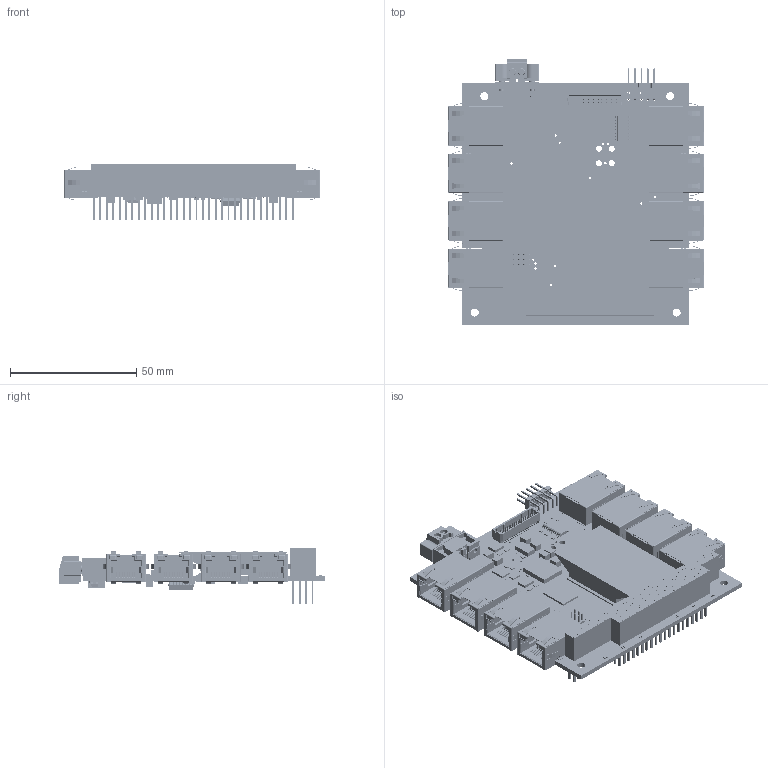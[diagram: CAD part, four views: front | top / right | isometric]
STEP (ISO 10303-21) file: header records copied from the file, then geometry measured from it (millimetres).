
FILE_DESCRIPTION(('Open CASCADE Model'),'2;1');
FILE_NAME('Open CASCADE Shape Model','2013-11-18T08:44:23',('Author'),( 'Open CASCADE'),'Open CASCADE STEP processor 6.2','Open CASCADE 6.2' ,'Unknown');
FILE_SCHEMA(('AUTOMOTIVE_DESIGN { 1 0 10303 214 1 1 1 1 }'));
Length unit declared in the file: millimetre
Products named in the file (406): PCB; Board; D2; 1027984736; Extruded; 1027979872; L4; 1027967072; L3; L2; L1; C138; 1027980128; 1027980000; C137; 1027979744; C136; C135; C134; C133; C132; C131; C130; C129; C128; 1027968352; 1027967712; C127; C126; C125; C124; 1027981664; 1027967584; C123; C122; C121; C120; C119; C118; C117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
Assembly tree (1339 placements, depth 4):
  PCB
    Board
    D2
      1027984736
        Extruded
      1027979872  x2
        Extruded
    L4
      1027967072
        Extruded
    L3
      1027967072
        Extruded
    L2
      1027967072
        Extruded
    L1
      1027967072
        Extruded
    C138
      1027980128
        Extruded
      1027980000  x2
        Extruded
    C137
      1027979872  x2
        Extruded
      1027979744
        Extruded
    C136
      1027979872  x2
        Extruded
      1027979744
        Extruded
    C135
      1027979872  x2
        Extruded
      1027979744
        Extruded
    C134
      1027979872  x2
        Extruded
      1027979744
        Extruded
    C133
      1027979872  x2
        Extruded
      1027979744
        Extruded
    C132
      1027979872  x2
        Extruded
      1027979744
        Extruded
    C131
      1027979872  x2
        Extruded
      1027979744
        Extruded
    C130
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Bounding box: 101.25 x 105.67 x 22.08 mm (x, y, z)
Volume: 53701.5 mm3; surface area: 85084.6 mm2
Topology: 1020 solids, 1020 shells, 16984 faces, 42183 edges, 27333 vertices
Faces by surface type: plane 13711, cylinder 2793, bspline 272, torus 80, sphere 78, cone 50
Full cylindrical faces by diameter (mm): 0.7 x2, 0.889 x8, 0.94 x10, 0.995 x6, 1.067 x102, 1.2 x18, 1.397 x16, 2.375 x4, 3.175 x4, 20 x1
Entity records: 333985 total; most frequent: CARTESIAN_POINT 71896, DIRECTION 45611, LINE 29619, VECTOR 29619, ORIENTED_EDGE 24118, PCURVE 24118, DEFINITIONAL_REPRESENTATION 24118, EDGE_CURVE 12059
